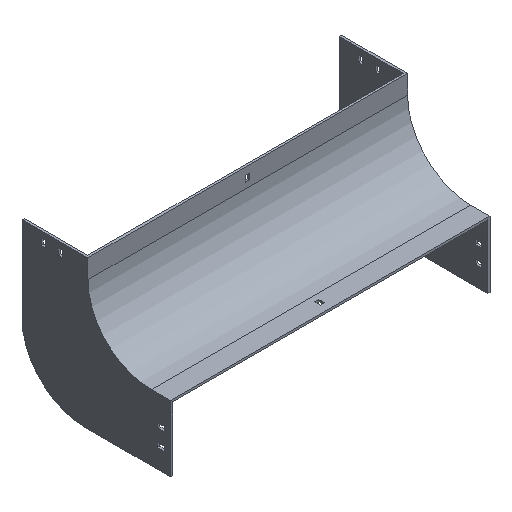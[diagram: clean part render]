
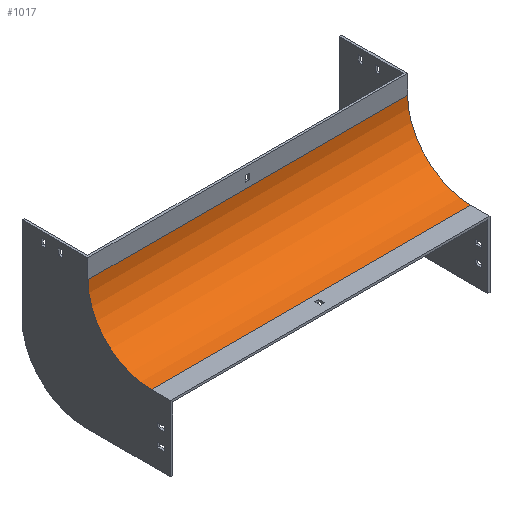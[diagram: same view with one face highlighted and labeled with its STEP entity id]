
A CAD part, isometric view. The second image highlights one B-rep face of the part: STEP entity #1017.
In plain terms, the highlighted cylindrical face has radius 100 mm (diameter 200 mm), a partial arc.
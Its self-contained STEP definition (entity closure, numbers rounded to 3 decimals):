
#28 = EDGE_CURVE ( 'NONE', #256, #1585, #1921, .T. ) ;
#31 = DIRECTION ( 'NONE',  ( -1., 0., 0. ) ) ;
#78 = VERTEX_POINT ( 'NONE', #686 ) ;
#130 = AXIS2_PLACEMENT_3D ( 'NONE', #1534, #31, #1842 ) ;
#207 = ORIENTED_EDGE ( 'NONE', *, *, #1488, .T. ) ;
#218 = EDGE_CURVE ( 'NONE', #256, #78, #974, .T. ) ;
#256 = VERTEX_POINT ( 'NONE', #690 ) ;
#262 = ORIENTED_EDGE ( 'NONE', *, *, #428, .F. ) ;
#281 = DIRECTION ( 'NONE',  ( -1., 0., 0. ) ) ;
#358 = VERTEX_POINT ( 'NONE', #751 ) ;
#417 = CARTESIAN_POINT ( 'NONE',  ( -252., 0., -30. ) ) ;
#428 = EDGE_CURVE ( 'NONE', #78, #358, #709, .T. ) ;
#475 = FACE_OUTER_BOUND ( 'NONE', #724, .T. ) ;
#504 = CARTESIAN_POINT ( 'NONE',  ( -252., -100., -30. ) ) ;
#686 = CARTESIAN_POINT ( 'NONE',  ( 252., -100., -130. ) ) ;
#690 = CARTESIAN_POINT ( 'NONE',  ( 252., 0., -30. ) ) ;
#709 = LINE ( 'NONE', #1498, #1196 ) ;
#711 = AXIS2_PLACEMENT_3D ( 'NONE', #1664, #1517, #1066 ) ;
#724 = EDGE_LOOP ( 'NONE', ( #207, #262, #1775, #943 ) ) ;
#751 = CARTESIAN_POINT ( 'NONE',  ( -252., -100., -130. ) ) ;
#785 = AXIS2_PLACEMENT_3D ( 'NONE', #504, #1092, #798 ) ;
#798 = DIRECTION ( 'NONE',  ( 0., 0., 1. ) ) ;
#943 = ORIENTED_EDGE ( 'NONE', *, *, #28, .T. ) ;
#974 = CIRCLE ( 'NONE', #130, 100. ) ;
#1017 = ADVANCED_FACE ( 'NONE', ( #475 ), #1330, .F. ) ;
#1066 = DIRECTION ( 'NONE',  ( 0., 0., 1. ) ) ;
#1092 = DIRECTION ( 'NONE',  ( -1., 0., 0. ) ) ;
#1196 = VECTOR ( 'NONE', #281, 1000. ) ;
#1330 = CYLINDRICAL_SURFACE ( 'NONE', #711, 100. ) ;
#1485 = VECTOR ( 'NONE', #1942, 1000. ) ;
#1488 = EDGE_CURVE ( 'NONE', #1585, #358, #1547, .T. ) ;
#1498 = CARTESIAN_POINT ( 'NONE',  ( 252., -100., -130. ) ) ;
#1499 = CARTESIAN_POINT ( 'NONE',  ( 252., 0., -30. ) ) ;
#1517 = DIRECTION ( 'NONE',  ( -1., 0., 0. ) ) ;
#1534 = CARTESIAN_POINT ( 'NONE',  ( 252., -100., -30. ) ) ;
#1547 = CIRCLE ( 'NONE', #785, 100. ) ;
#1585 = VERTEX_POINT ( 'NONE', #417 ) ;
#1664 = CARTESIAN_POINT ( 'NONE',  ( 252., -100., -30. ) ) ;
#1775 = ORIENTED_EDGE ( 'NONE', *, *, #218, .F. ) ;
#1842 = DIRECTION ( 'NONE',  ( 0., 0., 1. ) ) ;
#1921 = LINE ( 'NONE', #1499, #1485 ) ;
#1942 = DIRECTION ( 'NONE',  ( -1., 0., 0. ) ) ;
